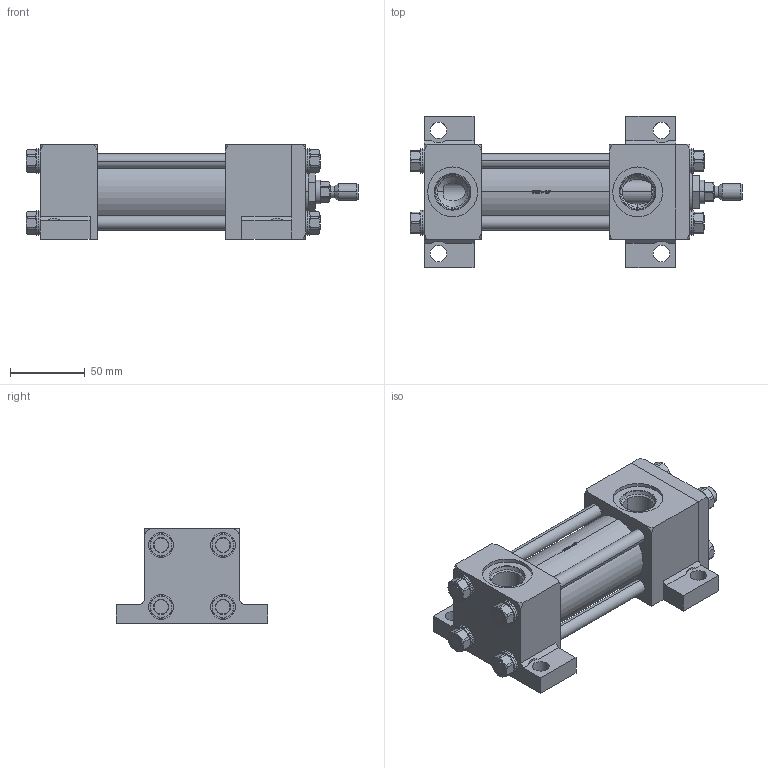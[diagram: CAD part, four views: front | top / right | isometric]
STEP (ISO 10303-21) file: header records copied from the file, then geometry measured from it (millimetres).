
FILE_DESCRIPTION (( 'STEP AP214' ), '1' );
FILE_NAME ('1.50C2HHNAT114A2.000.step', '2026-03-26T21:12:09', ( '' ), ( '' ), 'SwSTEP 2.0', 'SolidWorks 2023', '' );
FILE_SCHEMA (( 'AUTOMOTIVE_DESIGN' ));
Length unit declared in the file: inch
Products named in the file (1): 1.50C2HHNAT114A2.000
Bounding box: 222.25 x 101.6 x 63.5 mm (x, y, z)
Volume: 513823.8 mm3; surface area: 156860.8 mm2
Topology: 46 solids, 46 shells, 1220 faces, 3144 edges, 2023 vertices
Faces by surface type: plane 794, cylinder 222, cone 164, bspline 32, torus 8
Entity records: 55018 total; most frequent: CARTESIAN_POINT 10750, ORIENTED_EDGE 6288, DIRECTION 5146, EDGE_CURVE 3144, VERTEX_POINT 2023, AXIS2_PLACEMENT_3D 1747, LINE 1652, VECTOR 1652
